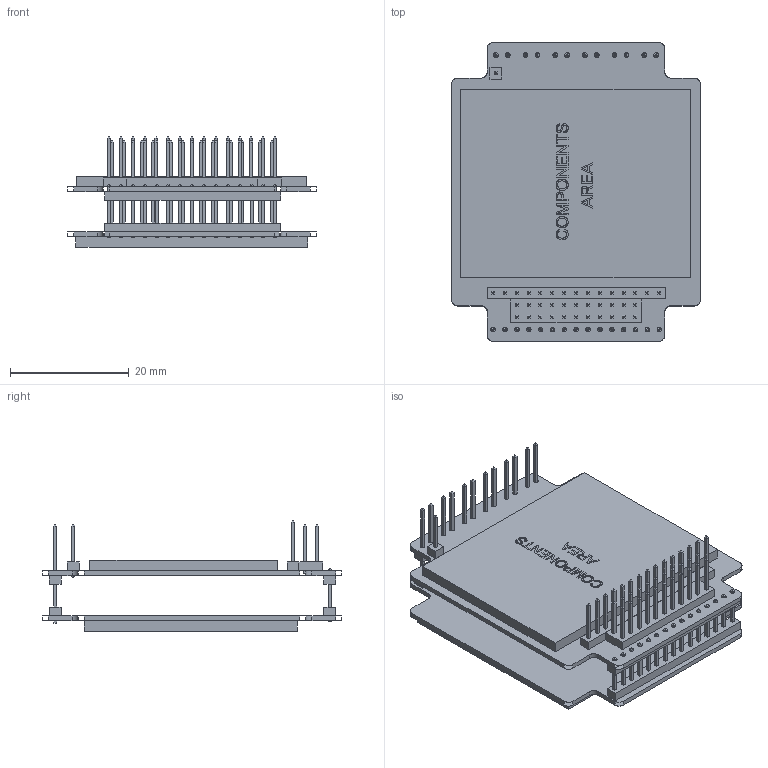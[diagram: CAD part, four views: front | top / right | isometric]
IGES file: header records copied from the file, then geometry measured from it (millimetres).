
Start section: SolidWorks IGES file using analytic representation for surfaces
Global section: file name: F:\ELMO\PRODUCTS\TWEETER\DRAWING\SOLID-PARTS\TWEETER.IGS; native system: SolidWorks 2006 by SolidWorks Corporation; preprocessor: SolidWorks 2006 by SolidWorks Corporation; author: shlomo; date: 060716.105832; units: millimetre
Bounding box: 41.9 x 50.4 x 18.65 mm (x, y, z)
Surface area: 13425.2 mm2 (no closed solid volume)
Topology: 0 solids, 0 shells, 1147 faces, 7127 edges, 7127 vertices
Faces by surface type: bspline 1035, revolution 112
